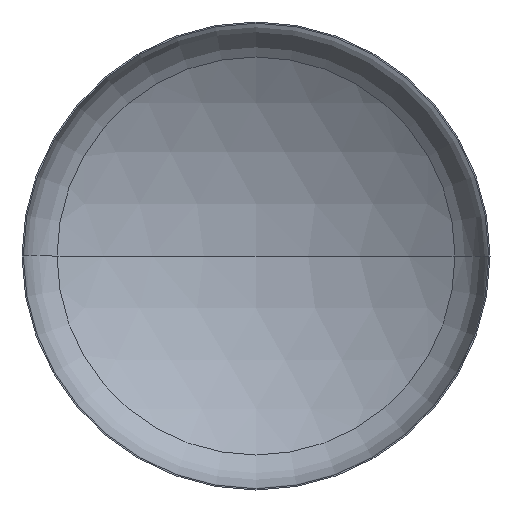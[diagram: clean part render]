
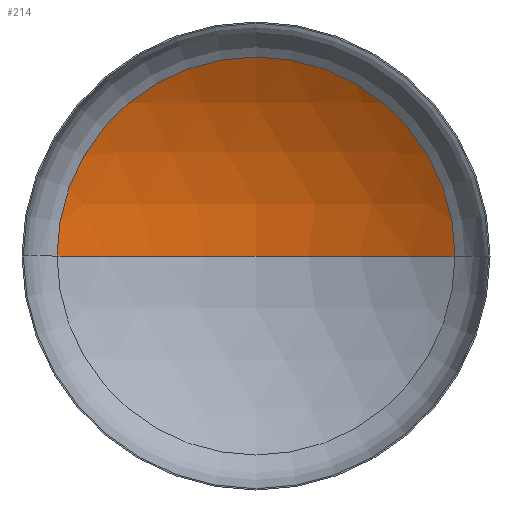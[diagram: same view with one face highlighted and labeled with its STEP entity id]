
A CAD part, front view. The second image highlights one B-rep face of the part: STEP entity #214.
In plain terms, the highlighted spherical face has radius 2080 mm.
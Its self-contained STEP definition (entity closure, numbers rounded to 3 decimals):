
#4 = ORIENTED_EDGE ( 'NONE', *, *, #344, .T. ) ;
#18 = EDGE_LOOP ( 'NONE', ( #20, #57, #4 ) ) ;
#20 = ORIENTED_EDGE ( 'NONE', *, *, #376, .F. ) ;
#21 = AXIS2_PLACEMENT_3D ( 'NONE', #237, #405, #190 ) ;
#32 = VERTEX_POINT ( 'NONE', #280 ) ;
#34 = VERTEX_POINT ( 'NONE', #359 ) ;
#41 = DIRECTION ( 'NONE',  ( -1., 0., 0. ) ) ;
#47 = AXIS2_PLACEMENT_3D ( 'NONE', #403, #346, #41 ) ;
#57 = ORIENTED_EDGE ( 'NONE', *, *, #379, .T. ) ;
#87 = VERTEX_POINT ( 'NONE', #215 ) ;
#118 = CARTESIAN_POINT ( 'NONE',  ( 0., -1398.008, 0. ) ) ;
#130 = CIRCLE ( 'NONE', #258, 2080. ) ;
#141 = CIRCLE ( 'NONE', #21, 1105.619 ) ;
#164 = SPHERICAL_SURFACE ( 'NONE', #47, 2080. ) ;
#190 = DIRECTION ( 'NONE',  ( 1., 0., 0. ) ) ;
#202 = DIRECTION ( 'NONE',  ( 0., 0., 1. ) ) ;
#214 = ADVANCED_FACE ( 'NONE', ( #300 ), #164, .F. ) ;
#215 = CARTESIAN_POINT ( 'NONE',  ( 0., 681.992, 0. ) ) ;
#218 = AXIS2_PLACEMENT_3D ( 'NONE', #353, #202, #411 ) ;
#222 = DIRECTION ( 'NONE',  ( 0., 0., -1. ) ) ;
#237 = CARTESIAN_POINT ( 'NONE',  ( 0., 363.811, 0. ) ) ;
#258 = AXIS2_PLACEMENT_3D ( 'NONE', #118, #222, #390 ) ;
#280 = CARTESIAN_POINT ( 'NONE',  ( -1105.619, 363.811, 0. ) ) ;
#300 = FACE_OUTER_BOUND ( 'NONE', #18, .T. ) ;
#318 = CIRCLE ( 'NONE', #218, 2080. ) ;
#344 = EDGE_CURVE ( 'NONE', #34, #32, #141, .T. ) ;
#346 = DIRECTION ( 'NONE',  ( 0., 0., -1. ) ) ;
#353 = CARTESIAN_POINT ( 'NONE',  ( 0., -1398.008, 0. ) ) ;
#359 = CARTESIAN_POINT ( 'NONE',  ( 1105.619, 363.811, 0. ) ) ;
#376 = EDGE_CURVE ( 'NONE', #87, #32, #318, .T. ) ;
#379 = EDGE_CURVE ( 'NONE', #87, #34, #130, .T. ) ;
#390 = DIRECTION ( 'NONE',  ( -1., 0., 0. ) ) ;
#403 = CARTESIAN_POINT ( 'NONE',  ( 0., -1398.008, 0. ) ) ;
#405 = DIRECTION ( 'NONE',  ( 0., -1., 0. ) ) ;
#411 = DIRECTION ( 'NONE',  ( 1., 0., 0. ) ) ;
